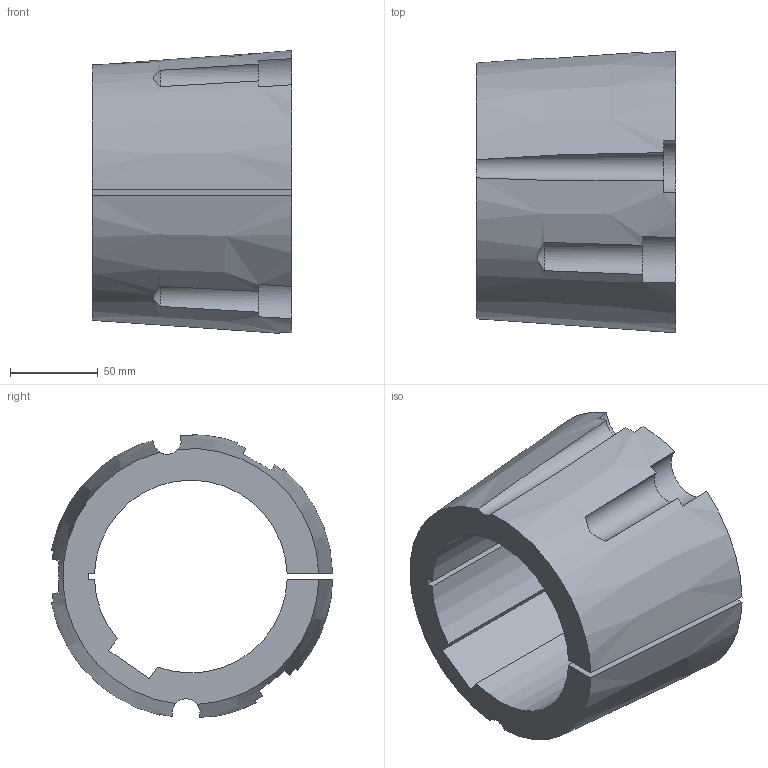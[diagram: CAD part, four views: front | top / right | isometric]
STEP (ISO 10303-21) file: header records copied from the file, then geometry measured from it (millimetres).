
FILE_DESCRIPTION( ( 'STEP AP203' ), '1' );
FILE_NAME( 'D:/export/antriebselemente/spannbuchsen_und_spannsaetze/taper-spannbuchsen_1008_bis_5050/taper-spannbuchsen_62251593Isometric_259.stp', '2018-12-11T11:11:36', ( '' ), ( '' ), ' ', 'PARTsolutions', ' ' );
FILE_SCHEMA( ( 'CONFIG_CONTROL_DESIGN' ) );
Length unit declared in the file: millimetre
Products named in the file (1): _taper-spannbuchsen_62251593
Bounding box: 114 x 160.6 x 161.35 mm (x, y, z)
Volume: 940470.3 mm3; surface area: 122839.6 mm2
Topology: 1 solids, 1 shells, 34 faces, 96 edges, 64 vertices
Faces by surface type: plane 15, cylinder 13, cone 6
Entity records: 1314 total; most frequent: CARTESIAN_POINT 390, ORIENTED_EDGE 192, DIRECTION 186, EDGE_CURVE 96, AXIS2_PLACEMENT_3D 80, VERTEX_POINT 64, CIRCLE 45, ADVANCED_FACE 34
